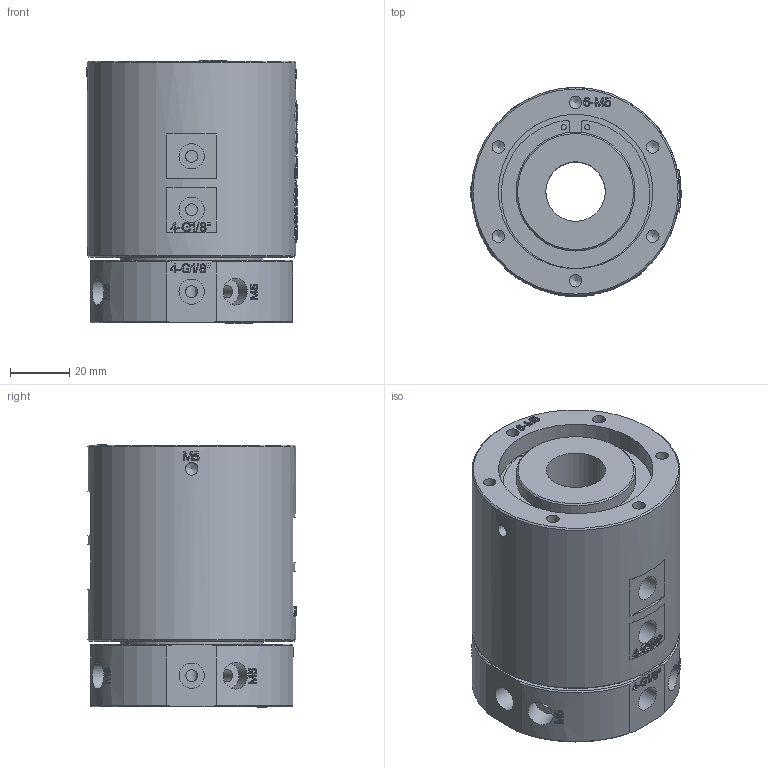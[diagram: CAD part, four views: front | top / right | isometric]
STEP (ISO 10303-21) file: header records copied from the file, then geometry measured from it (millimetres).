
FILE_DESCRIPTION(/* description */ (''),/* implementation_level */ '2;1');
FILE_NAME(/* name */ 'YQ0401-D20-3D模型.stp',/* time_stamp */ '2025-08-06T08:49:28+08:00',/* author */ (''),/* organization */ (''),/* preprocessor_version */ 'ST-DEVELOPER v16.7',/* originating_system */ 'SIEMENS PLM Software NX 12.0',/* authorisation */ '');
FILE_SCHEMA (('AUTOMOTIVE_DESIGN { 1 0 10303 214 3 1 1 1 }'));
Products named in the file (1): Admi3F746D2Ejpwr
Bounding box: 70.7 x 70.2 x 88.4 mm (x, y, z)
Volume: 290421.5 mm3; surface area: 46488.1 mm2
Topology: 1 solids, 1 shells, 1450 faces, 3982 edges, 2661 vertices
Faces by surface type: extrusion 753, plane 519, cylinder 90, bspline 65, cone 23
Full cylindrical faces by diameter (mm): 1.75 x2, 4 x12, 4.1 x4, 4.2 x16, 6.8 x4, 8.5 x8, 9 x4, 20 x1, 37.5 x1, 40 x1, 48 x1, 52 x1, 70 x1
Entity records: 56837 total; most frequent: CARTESIAN_POINT 25875, ORIENTED_EDGE 7698, EDGE_CURVE 3849, B_SPLINE_CURVE_WITH_KNOTS 3534, DIRECTION 3451, VERTEX_POINT 2618, EDGE_LOOP 1665, VECTOR 1457
